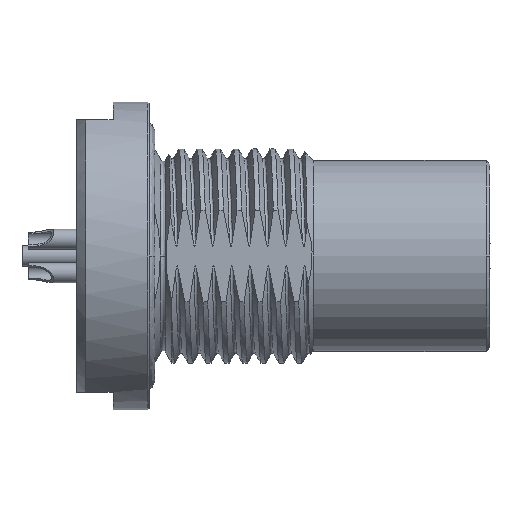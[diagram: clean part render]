
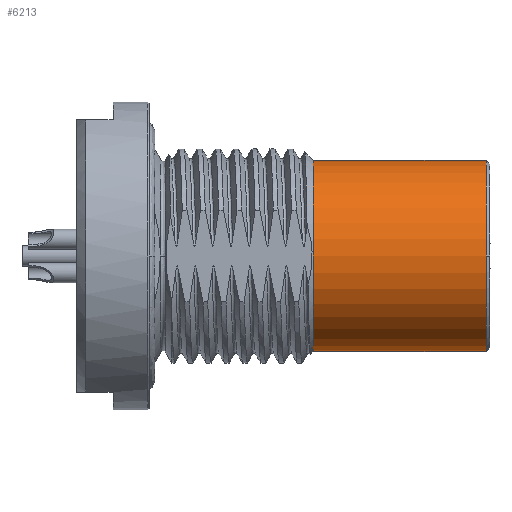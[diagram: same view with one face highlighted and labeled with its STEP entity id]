
A CAD part, front view. The second image highlights one B-rep face of the part: STEP entity #6213.
In plain terms, the highlighted cylindrical face has radius 5.25 mm (diameter 10.5 mm), a partial arc.
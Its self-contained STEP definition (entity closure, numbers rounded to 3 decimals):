
#324 = DIRECTION ( 'NONE',  ( 1., 0., 0. ) ) ;
#610 = CARTESIAN_POINT ( 'NONE',  ( -0.2, 0., 0. ) ) ;
#1104 = ORIENTED_EDGE ( 'NONE', *, *, #21837, .T. ) ;
#3115 = DIRECTION ( 'NONE',  ( 0., 0., -1. ) ) ;
#3527 = CIRCLE ( 'NONE', #30436, 5.25 ) ;
#5253 = CARTESIAN_POINT ( 'NONE',  ( -19.635, 0., 0. ) ) ;
#6213 = ADVANCED_FACE ( 'NONE', ( #7445 ), #6613, .T. ) ;
#6613 = CYLINDRICAL_SURFACE ( 'NONE', #21322, 5.25 ) ;
#6695 = VERTEX_POINT ( 'NONE', #8414 ) ;
#6915 = LINE ( 'NONE', #11855, #12837 ) ;
#7009 = VERTEX_POINT ( 'NONE', #15017 ) ;
#7417 = VECTOR ( 'NONE', #24554, 1000. ) ;
#7445 = FACE_OUTER_BOUND ( 'NONE', #22765, .T. ) ;
#8410 = EDGE_CURVE ( 'NONE', #23730, #21805, #12875, .T. ) ;
#8414 = CARTESIAN_POINT ( 'NONE',  ( -0.2, 0., -5.25 ) ) ;
#8551 = AXIS2_PLACEMENT_3D ( 'NONE', #11016, #28514, #13547 ) ;
#9440 = CIRCLE ( 'NONE', #30740, 5.25 ) ;
#10655 = CARTESIAN_POINT ( 'NONE',  ( -9.7, 0., 5.25 ) ) ;
#10827 = CARTESIAN_POINT ( 'NONE',  ( -0.2, -5.25, 0. ) ) ;
#11016 = CARTESIAN_POINT ( 'NONE',  ( -0.2, 0., 0. ) ) ;
#11855 = CARTESIAN_POINT ( 'NONE',  ( -19.635, 0., -5.25 ) ) ;
#12678 = CARTESIAN_POINT ( 'NONE',  ( -9.7, 0., 0. ) ) ;
#12693 = VERTEX_POINT ( 'NONE', #10655 ) ;
#12837 = VECTOR ( 'NONE', #14372, 1000. ) ;
#12875 = CIRCLE ( 'NONE', #8551, 5.25 ) ;
#13547 = DIRECTION ( 'NONE',  ( 0., 0., -1. ) ) ;
#14372 = DIRECTION ( 'NONE',  ( 1., 0., 0. ) ) ;
#14434 = ORIENTED_EDGE ( 'NONE', *, *, #14940, .F. ) ;
#14940 = EDGE_CURVE ( 'NONE', #12693, #21805, #20734, .T. ) ;
#15017 = CARTESIAN_POINT ( 'NONE',  ( -9.7, 0., -5.25 ) ) ;
#15201 = DIRECTION ( 'NONE',  ( 0., 0., -1. ) ) ;
#18141 = DIRECTION ( 'NONE',  ( -1., 0., 0. ) ) ;
#20368 = DIRECTION ( 'NONE',  ( 0., 0., -1. ) ) ;
#20390 = ORIENTED_EDGE ( 'NONE', *, *, #24510, .T. ) ;
#20734 = LINE ( 'NONE', #29860, #7417 ) ;
#21322 = AXIS2_PLACEMENT_3D ( 'NONE', #5253, #324, #20368 ) ;
#21805 = VERTEX_POINT ( 'NONE', #30519 ) ;
#21837 = EDGE_CURVE ( 'NONE', #6695, #23730, #3527, .T. ) ;
#22765 = EDGE_LOOP ( 'NONE', ( #14434, #31784, #20390, #1104, #28072 ) ) ;
#23730 = VERTEX_POINT ( 'NONE', #10827 ) ;
#24510 = EDGE_CURVE ( 'NONE', #7009, #6695, #6915, .T. ) ;
#24554 = DIRECTION ( 'NONE',  ( 1., 0., 0. ) ) ;
#28072 = ORIENTED_EDGE ( 'NONE', *, *, #8410, .T. ) ;
#28514 = DIRECTION ( 'NONE',  ( -1., 0., 0. ) ) ;
#29860 = CARTESIAN_POINT ( 'NONE',  ( -19.635, 0., 5.25 ) ) ;
#30172 = DIRECTION ( 'NONE',  ( 1., 0., 0. ) ) ;
#30436 = AXIS2_PLACEMENT_3D ( 'NONE', #610, #18141, #3115 ) ;
#30519 = CARTESIAN_POINT ( 'NONE',  ( -0.2, 0., 5.25 ) ) ;
#30740 = AXIS2_PLACEMENT_3D ( 'NONE', #12678, #30172, #15201 ) ;
#31784 = ORIENTED_EDGE ( 'NONE', *, *, #32267, .T. ) ;
#32267 = EDGE_CURVE ( 'NONE', #12693, #7009, #9440, .T. ) ;
